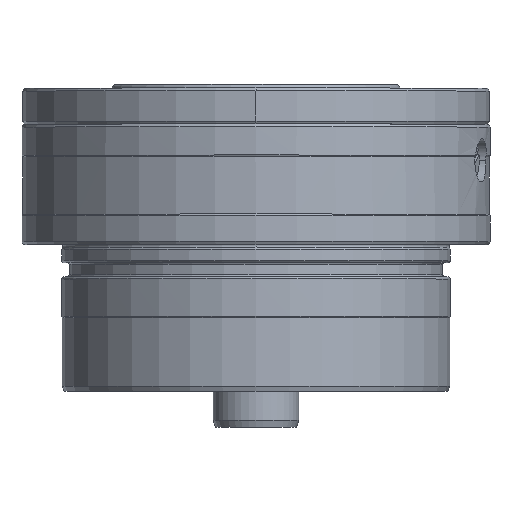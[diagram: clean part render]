
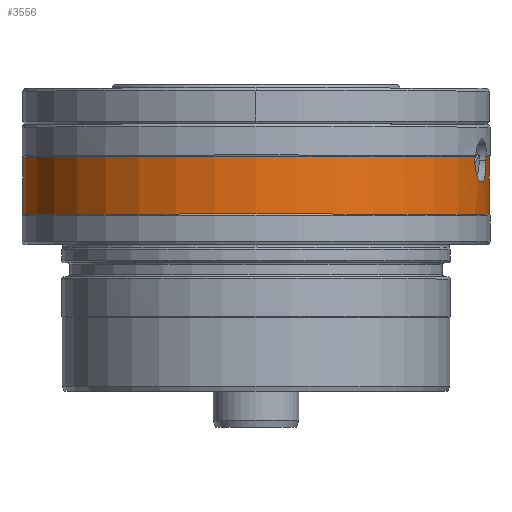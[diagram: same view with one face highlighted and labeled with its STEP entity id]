
A CAD part, top view. The second image highlights one B-rep face of the part: STEP entity #3556.
In plain terms, the highlighted cylindrical face has radius 32.4 mm (diameter 64.8 mm), a partial arc.
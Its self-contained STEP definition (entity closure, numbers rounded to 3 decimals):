
#442=CARTESIAN_POINT('',(30.399,12.192,11.209));
#444=CARTESIAN_POINT('',(0.,12.192,0.));
#445=DIRECTION('',(0.,-1.,0.));
#446=DIRECTION('',(0.938,0.,0.346));
#447=AXIS2_PLACEMENT_3D('',#444,#445,#446);
#454=CARTESIAN_POINT('',(0.,12.192,0.));
#455=DIRECTION('',(0.,-1.,0.));
#456=DIRECTION('',(1.,0.,0.));
#457=AXIS2_PLACEMENT_3D('',#454,#455,#456);
#475=CARTESIAN_POINT('',(31.938,11.7,5.452));
#476=CARTESIAN_POINT('',(31.938,11.755,5.452));
#477=CARTESIAN_POINT('',(31.937,11.865,5.455));
#478=CARTESIAN_POINT('',(31.935,12.029,5.468));
#479=CARTESIAN_POINT('',(31.933,12.138,5.483));
#480=CARTESIAN_POINT('',(31.931,12.192,5.492));
#482=DIRECTION('',(0.,1.,0.));
#483=VECTOR('',#482,8.);
#484=CARTESIAN_POINT('',(-32.4,4.192,0.));
#485=LINE('',#484,#483);
#486=CARTESIAN_POINT('',(30.399,12.192,11.209));
#487=CARTESIAN_POINT('',(30.396,12.138,11.218));
#488=CARTESIAN_POINT('',(30.391,12.029,11.232));
#489=CARTESIAN_POINT('',(30.386,11.865,11.245));
#490=CARTESIAN_POINT('',(30.385,11.755,11.247));
#491=CARTESIAN_POINT('',(30.385,11.7,11.247));
#493=CARTESIAN_POINT('',(31.938,11.7,5.452));
#494=CARTESIAN_POINT('',(31.938,11.46,5.452));
#495=CARTESIAN_POINT('',(31.928,10.979,5.509));
#496=CARTESIAN_POINT('',(31.884,10.297,5.763));
#497=CARTESIAN_POINT('',(31.808,9.693,6.174));
#498=CARTESIAN_POINT('',(31.701,9.214,6.703));
#499=CARTESIAN_POINT('',(31.561,8.871,7.335));
#500=CARTESIAN_POINT('',(31.394,8.694,8.024));
#501=CARTESIAN_POINT('',(31.205,8.692,8.728));
#502=CARTESIAN_POINT('',(31.007,8.863,9.407));
#503=CARTESIAN_POINT('',(30.812,9.2,10.026));
#504=CARTESIAN_POINT('',(30.637,9.678,10.545));
#505=CARTESIAN_POINT('',(30.495,10.287,10.947));
#506=CARTESIAN_POINT('',(30.405,10.977,11.193));
#507=CARTESIAN_POINT('',(30.385,11.46,11.247));
#508=CARTESIAN_POINT('',(30.385,11.7,11.247));
#1477=CARTESIAN_POINT('',(0.,4.192,0.));
#1478=DIRECTION('',(0.,1.,0.));
#1479=DIRECTION('',(-1.,0.,0.));
#1480=AXIS2_PLACEMENT_3D('',#1477,#1478,#1479);
#1514=DIRECTION('',(0.,1.,0.));
#1515=VECTOR('',#1514,8.);
#1516=CARTESIAN_POINT('',(32.4,4.192,0.));
#1517=LINE('',#1516,#1515);
#2682=CARTESIAN_POINT('',(-32.4,4.192,0.));
#2683=VERTEX_POINT('',#2682);
#2684=CARTESIAN_POINT('',(32.4,4.192,0.));
#2685=VERTEX_POINT('',#2684);
#2688=VERTEX_POINT('',#442);
#2689=CARTESIAN_POINT('',(-32.4,12.192,0.));
#2690=VERTEX_POINT('',#2689);
#2691=CARTESIAN_POINT('',(32.4,12.192,0.));
#2692=VERTEX_POINT('',#2691);
#2693=CARTESIAN_POINT('',(31.931,12.192,5.492));
#2694=VERTEX_POINT('',#2693);
#2695=VERTEX_POINT('',#475);
#2700=CARTESIAN_POINT('',(30.385,11.7,11.247));
#2701=VERTEX_POINT('',#2700);
#3537=CARTESIAN_POINT('',(0.,12.803,0.));
#3538=DIRECTION('',(0.,-1.,0.));
#3539=DIRECTION('',(-1.,0.,0.));
#3540=AXIS2_PLACEMENT_3D('',#3537,#3538,#3539);
#3541=CYLINDRICAL_SURFACE('',#3540,32.4);
#3543=ORIENTED_EDGE('',*,*,#3542,.F.);
#3544=ORIENTED_EDGE('',*,*,#3481,.T.);
#3545=ORIENTED_EDGE('',*,*,#3510,.F.);
#3547=ORIENTED_EDGE('',*,*,#3546,.F.);
#3549=ORIENTED_EDGE('',*,*,#3548,.F.);
#3551=ORIENTED_EDGE('',*,*,#3550,.T.);
#3552=ORIENTED_EDGE('',*,*,#3506,.F.);
#3553=ORIENTED_EDGE('',*,*,#3489,.T.);
#3554=EDGE_LOOP('',(#3543,#3544,#3545,#3547,#3549,#3551,#3552,#3553));
#3555=FACE_OUTER_BOUND('',#3554,.F.);
#448=CIRCLE('',#447,32.4);
#458=CIRCLE('',#457,32.4);
#481=B_SPLINE_CURVE_WITH_KNOTS('',3,(#475,#476,#477,#478,#479,#480),
.UNSPECIFIED.,.F.,.F.,(4,1,1,4),(0.,0.333,0.667,1.),
.UNSPECIFIED.);
#492=B_SPLINE_CURVE_WITH_KNOTS('',3,(#486,#487,#488,#489,#490,#491),
.UNSPECIFIED.,.F.,.F.,(4,1,1,4),(0.,0.333,0.667,1.),
.UNSPECIFIED.);
#509=B_SPLINE_CURVE_WITH_KNOTS('',3,(#493,#494,#495,#496,#497,#498,#499,#500,
#501,#502,#503,#504,#505,#506,#507,#508),.UNSPECIFIED.,.F.,.F.,(4,1,1,1,1,1,1,1,
1,1,1,1,1,4),(0.,0.077,0.154,0.231,
0.308,0.385,0.462,0.538,
0.615,0.692,0.769,0.846,
0.923,1.),.UNSPECIFIED.);
#1481=CIRCLE('',#1480,32.4);
#3481=EDGE_CURVE('',#2695,#2694,#481,.T.);
#3489=EDGE_CURVE('',#2688,#2701,#492,.T.);
#3506=EDGE_CURVE('',#2688,#2690,#448,.T.);
#3510=EDGE_CURVE('',#2692,#2694,#458,.T.);
#3542=EDGE_CURVE('',#2695,#2701,#509,.T.);
#3546=EDGE_CURVE('',#2685,#2692,#1517,.T.);
#3548=EDGE_CURVE('',#2683,#2685,#1481,.T.);
#3550=EDGE_CURVE('',#2683,#2690,#485,.T.);
#3556=ADVANCED_FACE('',(#3555),#3541,.T.);
